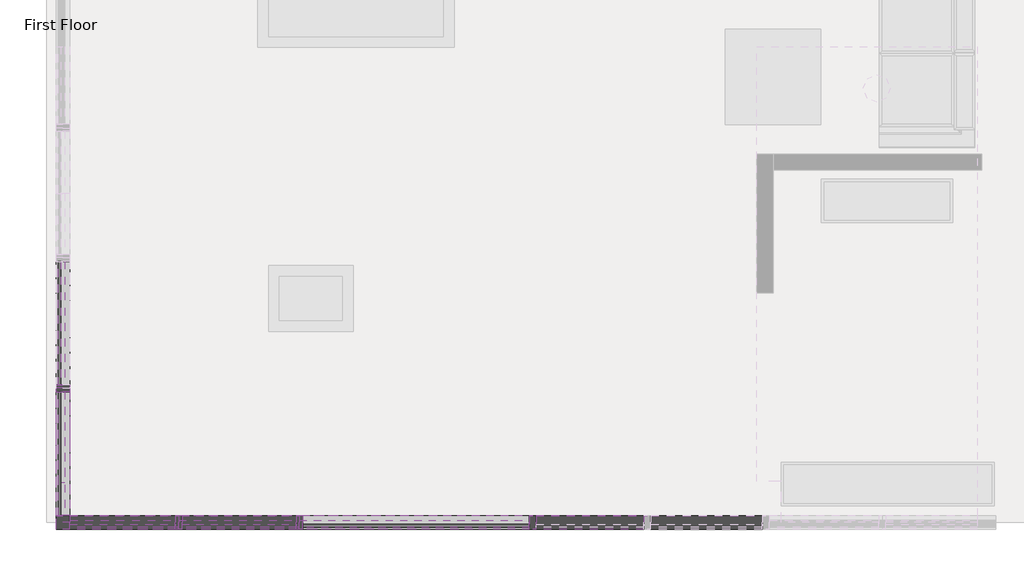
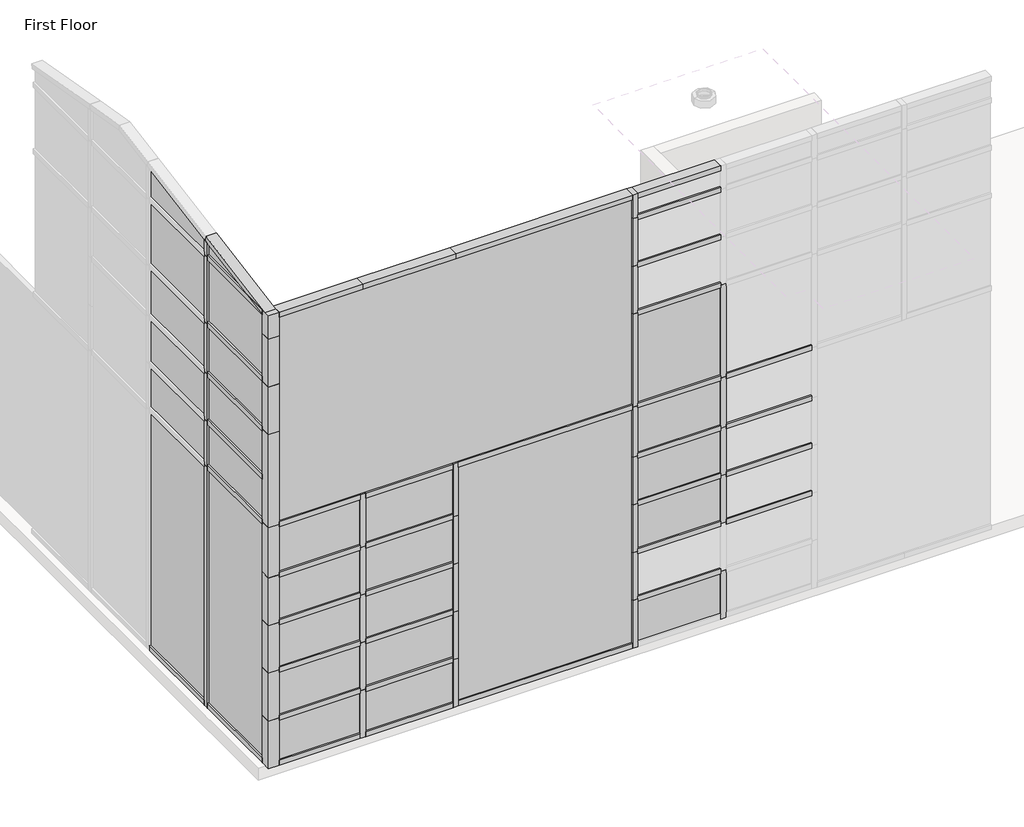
# One storey, part 1 of 5: 77 members, 29 plates.
"""IFC4 building model written with IfcOpenShell, lengths in millimetres."""

from ifc_helpers import new_model, si_unit, origin, place, context, project, spatial, transform, mapped, element, save
from components import member_f9488aa6, member_61850fe3, member_cf64a30b, member_1d60c77e, rectangular_mullion_rectangular_mullion_1_6e77e263, rectangular_mullion_rectangular_mullion_1_75d1e245, rectangular_mullion_rectangular_mullion_1_d7ed0fb9, rectangular_mullion_rectangular_mullion_1_7275bfda, rectangular_mullion_rectangular_mullion_1_3cf98a9d, rectangular_mullion_rectangular_mullion_1_51170729, rectangular_mullion_rectangular_mullion_1_02de63bf, rectangular_mullion_rectangular_mullion_1_b3f2e294, rectangular_mullion_rectangular_mullion_1_c0a49549, rectangular_mullion_rectangular_mullion_1_54137339, rectangular_mullion_rectangular_mullion_1_1122ec7b, rectangular_mullion_rectangular_mullion_1_5249c285, rectangular_mullion_rectangular_mullion_1_8863286a, rectangular_mullion_rectangular_mullion_1_227d3ff1, rectangular_mullion_rectangular_mullion_1_29433100, rectangular_mullion_rectangular_mullion_1_9379107f, rectangular_mullion_rectangular_mullion_1_57ef5777, rectangular_mullion_rectangular_mullion_1_c5460103, rectangular_mullion_rectangular_mullion_1_691106c5, rectangular_mullion_rectangular_mullion_1_5e4cd11c, rectangular_mullion_rectangular_mullion_1_b03e071e, rectangular_mullion_rectangular_mullion_1_b5e65c95, rectangular_mullion_rectangular_mullion_1_7db1855a, rectangular_mullion_rectangular_mullion_1_b08400bc, system_panel_glazed_07d0ebf8, system_panel_glazed_664bf825, system_panel_glazed_ae41f1da, system_panel_glazed_af4c5372, system_panel_glazed_f9e50f4f, system_panel_glazed_065c974c, system_panel_glazed_c6294ef1, system_panel_glazed_9d1674b2, system_panel_glazed_2b550350, system_panel_glazed_a1942897, system_panel_glazed_2df7e5ea, system_panel_glazed_8fba31e9, system_panel_glazed_e0c4105e, system_panel_glazed_89e5f45a, system_panel_solid_white_42bdd3c1, system_panel_solid_white_900c7463, system_panel_solid_white_c78bf428, system_panel_solid_white_f558f5f0, system_panel_solid_white_887372fa, system_panel_solid_white_6decfe58, system_panel_solid_white_d7c5bbf2

model = new_model("IFC4")

# Units and contexts
model_context = context("Model", 3, world=origin())
ifc_project = project(units=[si_unit("LENGTHUNIT", "METRE", prefix="MILLI")], contexts=[model_context])

# Site, building, storey
site = spatial("IfcSite", under=ifc_project)
building = spatial("IfcBuilding", under=site)
storey = spatial("IfcBuildingStorey", under=building, Name="First Floor", Elevation=0.0)

# Members
placement = place(None, origin())
member_shape = member_f9488aa6(model_context)
element("IfcMember", 1, ObjectType="Quad Corner Mullion : 3\" x 1 1/2\" Quad Mullion", at=placement, inside=storey, context=model_context, shape_type="MappedRepresentation", body=[
    mapped(member_shape, transform((-10676.9717693, 6074.9400612, 4267.2), x_axis=(-1.0, 0.0, 0.0), y_axis=(0.0, 1.0, 0.0), z_axis=(0.0, 0.0, -1.0))),
])
element("IfcMember", 2, ObjectType="Quad Corner Mullion : 3\" x 1 1/2\" Quad Mullion", at=placement, inside=storey, context=model_context, shape_type="MappedRepresentation", body=[
    mapped(member_shape, transform((-10676.9717693, 6074.9400612, 4876.8), x_axis=(-1.0, 0.0, 0.0), y_axis=(0.0, 1.0, 0.0), z_axis=(0.0, 0.0, -1.0))),
])
member_2_shape = member_61850fe3(model_context)
element("IfcMember", 3, ObjectType="Quad Corner Mullion : 3\" x 1 1/2\" Quad Mullion", at=placement, inside=storey, context=model_context, shape_type="MappedRepresentation", body=[
    mapped(member_2_shape, transform((-10676.9717693, 6074.9400612, 5486.4), x_axis=(-1.0, 0.0, 0.0), y_axis=(0.0, 1.0, 0.0), z_axis=(0.0, 0.0, -1.0))),
])
element("IfcMember", 4, ObjectType="Quad Corner Mullion : 3\" x 1 1/2\" Quad Mullion", at=placement, inside=storey, context=model_context, shape_type="MappedRepresentation", body=[
    mapped(member_shape, transform((-10676.9717693, 6074.9400612, 609.6), x_axis=(-1.0, 0.0, 0.0), y_axis=(0.0, 1.0, 0.0), z_axis=(0.0, 0.0, -1.0))),
])
element("IfcMember", 5, ObjectType="Quad Corner Mullion : 3\" x 1 1/2\" Quad Mullion", at=placement, inside=storey, context=model_context, shape_type="MappedRepresentation", body=[
    mapped(member_shape, transform((-10676.9717693, 6074.9400612, 1828.8), x_axis=(-1.0, 0.0, 0.0), y_axis=(0.0, 1.0, 0.0), z_axis=(0.0, 0.0, -1.0))),
])
element("IfcMember", 6, ObjectType="Quad Corner Mullion : 3\" x 1 1/2\" Quad Mullion", at=placement, inside=storey, context=model_context, shape_type="MappedRepresentation", body=[
    mapped(member_shape, transform((-10676.9717693, 6074.9400612, 1219.2), x_axis=(-1.0, 0.0, 0.0), y_axis=(0.0, 1.0, 0.0), z_axis=(0.0, 0.0, -1.0))),
])
element("IfcMember", 7, ObjectType="Quad Corner Mullion : 3\" x 1 1/2\" Quad Mullion", at=placement, inside=storey, context=model_context, shape_type="MappedRepresentation", body=[
    mapped(member_shape, transform((-10676.9717693, 6074.9400612, 0.0), x_axis=(-1.0, 0.0, 0.0), y_axis=(0.0, 1.0, 0.0), z_axis=(0.0, 0.0, -1.0))),
])
member_3_shape = member_cf64a30b(model_context)
element("IfcMember", 8, ObjectType="Quad Corner Mullion : 3\" x 1 1/2\" Quad Mullion", at=placement, inside=storey, context=model_context, shape_type="MappedRepresentation", body=[
    mapped(member_3_shape, transform((-10676.9717693, 6074.9400612, 3079.75), x_axis=(-1.0, 0.0, 0.0), y_axis=(0.0, 1.0, 0.0), z_axis=(0.0, 0.0, -1.0))),
])
member_4_shape = member_1d60c77e(model_context)
element("IfcMember", 9, ObjectType="Quad Corner Mullion : 3\" x 1 1/2\" Quad Mullion", at=placement, inside=storey, context=model_context, shape_type="MappedRepresentation", body=[
    mapped(member_4_shape, transform((-10676.9717693, 6074.9400612, 2438.4), x_axis=(-1.0, 0.0, 0.0), y_axis=(0.0, 1.0, 0.0), z_axis=(0.0, 0.0, -1.0))),
])
rectangular_mullion_rectangular_mullion_1_shape = rectangular_mullion_rectangular_mullion_1_6e77e263(model_context)
element("IfcMember", 10, ObjectType="Rectangular Mullion : Rectangular Mullion 1", at=placement, inside=storey, context=model_context, shape_type="MappedRepresentation", body=[
    mapped(rectangular_mullion_rectangular_mullion_1_shape, transform((-6309.078912, 6074.9400612, 0.0), x_axis=(-1.0, 0.0, 0.0), y_axis=(0.0, 1.0, 0.0), z_axis=(0.0, 0.0, -1.0))),
])
element("IfcMember", 11, ObjectType="Rectangular Mullion : Rectangular Mullion 1", at=placement, inside=storey, context=model_context, shape_type="MappedRepresentation", body=[
    mapped(rectangular_mullion_rectangular_mullion_1_shape, transform((-8477.1503405, 6074.9400612, 0.0), x_axis=(-1.0, 0.0, 0.0), y_axis=(0.0, 1.0, 0.0), z_axis=(0.0, 0.0, -1.0))),
])
element("IfcMember", 12, ObjectType="Rectangular Mullion : Rectangular Mullion 1", at=placement, inside=storey, context=model_context, shape_type="MappedRepresentation", body=[
    mapped(rectangular_mullion_rectangular_mullion_1_shape, transform((-9599.7396265, 6074.9400612, 0.0), x_axis=(-1.0, 0.0, 0.0), y_axis=(0.0, 1.0, 0.0), z_axis=(0.0, 0.0, -1.0))),
])
element("IfcMember", 13, ObjectType="Rectangular Mullion : Rectangular Mullion 1", at=placement, inside=storey, context=model_context, shape_type="MappedRepresentation", body=[
    mapped(rectangular_mullion_rectangular_mullion_1_shape, transform((-5243.186055, 6074.9400612, 0.0), x_axis=(-1.0, 0.0, 0.0), y_axis=(0.0, 1.0, 0.0), z_axis=(0.0, 0.0, -1.0))),
])
element("IfcMember", 14, ObjectType="Rectangular Mullion : Rectangular Mullion 1", at=placement, inside=storey, context=model_context, shape_type="MappedRepresentation", body=[
    mapped(rectangular_mullion_rectangular_mullion_1_shape, transform((-5243.186055, 6074.9400612, 1219.2), x_axis=(-1.0, 0.0, 0.0), y_axis=(0.0, 1.0, 0.0), z_axis=(0.0, 0.0, -1.0))),
])
element("IfcMember", 15, ObjectType="Rectangular Mullion : Rectangular Mullion 1", at=placement, inside=storey, context=model_context, shape_type="MappedRepresentation", body=[
    mapped(rectangular_mullion_rectangular_mullion_1_shape, transform((-6309.078912, 6074.9400612, 1219.2), x_axis=(-1.0, 0.0, 0.0), y_axis=(0.0, 1.0, 0.0), z_axis=(0.0, 0.0, -1.0))),
])
element("IfcMember", 16, ObjectType="Rectangular Mullion : Rectangular Mullion 1", at=placement, inside=storey, context=model_context, shape_type="MappedRepresentation", body=[
    mapped(rectangular_mullion_rectangular_mullion_1_shape, transform((-8477.1503405, 6074.9400612, 1219.2), x_axis=(-1.0, 0.0, 0.0), y_axis=(0.0, 1.0, 0.0), z_axis=(0.0, 0.0, -1.0))),
])
element("IfcMember", 17, ObjectType="Rectangular Mullion : Rectangular Mullion 1", at=placement, inside=storey, context=model_context, shape_type="MappedRepresentation", body=[
    mapped(rectangular_mullion_rectangular_mullion_1_shape, transform((-9599.7396265, 6074.9400612, 1219.2), x_axis=(-1.0, 0.0, 0.0), y_axis=(0.0, 1.0, 0.0), z_axis=(0.0, 0.0, -1.0))),
])
element("IfcMember", 18, ObjectType="Rectangular Mullion : Rectangular Mullion 1", at=placement, inside=storey, context=model_context, shape_type="MappedRepresentation", body=[
    mapped(rectangular_mullion_rectangular_mullion_1_shape, transform((-5243.186055, 6074.9400612, 1828.8), x_axis=(-1.0, 0.0, 0.0), y_axis=(0.0, 1.0, 0.0), z_axis=(0.0, 0.0, -1.0))),
])
element("IfcMember", 19, ObjectType="Rectangular Mullion : Rectangular Mullion 1", at=placement, inside=storey, context=model_context, shape_type="MappedRepresentation", body=[
    mapped(rectangular_mullion_rectangular_mullion_1_shape, transform((-6309.078912, 6074.9400612, 1828.8), x_axis=(-1.0, 0.0, 0.0), y_axis=(0.0, 1.0, 0.0), z_axis=(0.0, 0.0, -1.0))),
])
element("IfcMember", 20, ObjectType="Rectangular Mullion : Rectangular Mullion 1", at=placement, inside=storey, context=model_context, shape_type="MappedRepresentation", body=[
    mapped(rectangular_mullion_rectangular_mullion_1_shape, transform((-8477.1503405, 6074.9400612, 1828.8), x_axis=(-1.0, 0.0, 0.0), y_axis=(0.0, 1.0, 0.0), z_axis=(0.0, 0.0, -1.0))),
])
element("IfcMember", 21, ObjectType="Rectangular Mullion : Rectangular Mullion 1", at=placement, inside=storey, context=model_context, shape_type="MappedRepresentation", body=[
    mapped(rectangular_mullion_rectangular_mullion_1_shape, transform((-9599.7396265, 6074.9400612, 1828.8), x_axis=(-1.0, 0.0, 0.0), y_axis=(0.0, 1.0, 0.0), z_axis=(0.0, 0.0, -1.0))),
])
element("IfcMember", 22, ObjectType="Rectangular Mullion : Rectangular Mullion 1", at=placement, inside=storey, context=model_context, shape_type="MappedRepresentation", body=[
    mapped(rectangular_mullion_rectangular_mullion_1_shape, transform((-6309.078912, 6074.9400612, 609.6), x_axis=(-1.0, 0.0, 0.0), y_axis=(0.0, 1.0, 0.0), z_axis=(0.0, 0.0, -1.0))),
])
element("IfcMember", 23, ObjectType="Rectangular Mullion : Rectangular Mullion 1", at=placement, inside=storey, context=model_context, shape_type="MappedRepresentation", body=[
    mapped(rectangular_mullion_rectangular_mullion_1_shape, transform((-8477.1503405, 6074.9400612, 609.6), x_axis=(-1.0, 0.0, 0.0), y_axis=(0.0, 1.0, 0.0), z_axis=(0.0, 0.0, -1.0))),
])
element("IfcMember", 24, ObjectType="Rectangular Mullion : Rectangular Mullion 1", at=placement, inside=storey, context=model_context, shape_type="MappedRepresentation", body=[
    mapped(rectangular_mullion_rectangular_mullion_1_shape, transform((-9599.7396265, 6074.9400612, 609.6), x_axis=(-1.0, 0.0, 0.0), y_axis=(0.0, 1.0, 0.0), z_axis=(0.0, 0.0, -1.0))),
])
element("IfcMember", 25, ObjectType="Rectangular Mullion : Rectangular Mullion 1", at=placement, inside=storey, context=model_context, shape_type="MappedRepresentation", body=[
    mapped(rectangular_mullion_rectangular_mullion_1_shape, transform((-6309.078912, 6074.9400612, 4876.8), x_axis=(-1.0, 0.0, 0.0), y_axis=(0.0, 1.0, 0.0), z_axis=(0.0, 0.0, -1.0))),
])
element("IfcMember", 26, ObjectType="Rectangular Mullion : Rectangular Mullion 1", at=placement, inside=storey, context=model_context, shape_type="MappedRepresentation", body=[
    mapped(rectangular_mullion_rectangular_mullion_1_shape, transform((-6309.078912, 6074.9400612, 4267.2), x_axis=(-1.0, 0.0, 0.0), y_axis=(0.0, 1.0, 0.0), z_axis=(0.0, 0.0, -1.0))),
])
element("IfcMember", 27, ObjectType="Rectangular Mullion : Rectangular Mullion 1", at=placement, inside=storey, context=model_context, shape_type="MappedRepresentation", body=[
    mapped(rectangular_mullion_rectangular_mullion_1_shape, transform((-10676.9717693, 7320.8100614, 3657.6), x_axis=(0.0, 1.0, 0.0), y_axis=(1.0, 0.0, 0.0), z_axis=(0.0, 0.0, -1.0))),
])
rectangular_mullion_rectangular_mullion_1_2_shape = rectangular_mullion_rectangular_mullion_1_75d1e245(model_context)
element("IfcMember", 28, ObjectType="Rectangular Mullion : Rectangular Mullion 1", at=placement, inside=storey, context=model_context, shape_type="MappedRepresentation", body=[
    mapped(rectangular_mullion_rectangular_mullion_1_2_shape, transform((-6309.078912, 6074.9400612, 5486.4), x_axis=(-1.0, 0.0, 0.0), y_axis=(0.0, 1.0, 0.0), z_axis=(0.0, 0.0, -1.0))),
])
rectangular_mullion_rectangular_mullion_1_3_shape = rectangular_mullion_rectangular_mullion_1_d7ed0fb9(model_context)
element("IfcMember", 29, ObjectType="Rectangular Mullion : Rectangular Mullion 1", at=placement, inside=storey, context=model_context, shape_type="MappedRepresentation", body=[
    mapped(rectangular_mullion_rectangular_mullion_1_3_shape, transform((-10613.4717693, 6074.9400612, 3079.75), x_axis=(0.0, 0.0, 1.0), y_axis=(0.0, 1.0, 0.0), z_axis=(-1.0, 0.0, 0.0))),
])
element("IfcMember", 30, ObjectType="Rectangular Mullion : Rectangular Mullion 1", at=placement, inside=storey, context=model_context, shape_type="MappedRepresentation", body=[
    mapped(rectangular_mullion_rectangular_mullion_1_3_shape, transform((-10613.4717693, 6074.9400612, 2438.4), x_axis=(0.0, 0.0, 1.0), y_axis=(0.0, 1.0, 0.0), z_axis=(-1.0, 0.0, 0.0))),
])
element("IfcMember", 31, ObjectType="Rectangular Mullion : Rectangular Mullion 1", at=placement, inside=storey, context=model_context, shape_type="MappedRepresentation", body=[
    mapped(rectangular_mullion_rectangular_mullion_1_3_shape, transform((-10613.4717693, 6074.9400612, 1219.2), x_axis=(0.0, 0.0, 1.0), y_axis=(0.0, 1.0, 0.0), z_axis=(-1.0, 0.0, 0.0))),
])
element("IfcMember", 32, ObjectType="Rectangular Mullion : Rectangular Mullion 1", at=placement, inside=storey, context=model_context, shape_type="MappedRepresentation", body=[
    mapped(rectangular_mullion_rectangular_mullion_1_3_shape, transform((-10613.4717693, 6074.9400612, 1828.8), x_axis=(0.0, 0.0, 1.0), y_axis=(0.0, 1.0, 0.0), z_axis=(-1.0, 0.0, 0.0))),
])
element("IfcMember", 33, ObjectType="Rectangular Mullion : Rectangular Mullion 1", at=placement, inside=storey, context=model_context, shape_type="MappedRepresentation", body=[
    mapped(rectangular_mullion_rectangular_mullion_1_3_shape, transform((-10613.4717693, 6074.9400612, 609.6), x_axis=(0.0, 0.0, 1.0), y_axis=(0.0, 1.0, 0.0), z_axis=(-1.0, 0.0, 0.0))),
])
rectangular_mullion_rectangular_mullion_1_4_shape = rectangular_mullion_rectangular_mullion_1_7275bfda(model_context)
element("IfcMember", 34, ObjectType="Rectangular Mullion : Rectangular Mullion 1", at=placement, inside=storey, context=model_context, shape_type="MappedRepresentation", body=[
    mapped(rectangular_mullion_rectangular_mullion_1_4_shape, transform((-9631.4896265, 6074.9400612, 0.0), x_axis=(0.0, 0.0, -1.0), y_axis=(0.0, 1.0, 0.0), z_axis=(1.0, 0.0, 0.0))),
])
rectangular_mullion_rectangular_mullion_1_5_shape = rectangular_mullion_rectangular_mullion_1_3cf98a9d(model_context)
element("IfcMember", 35, ObjectType="Rectangular Mullion : Rectangular Mullion 1", at=placement, inside=storey, context=model_context, shape_type="MappedRepresentation", body=[
    mapped(rectangular_mullion_rectangular_mullion_1_5_shape, transform((-10613.4717693, 6074.9400612, 5791.2), x_axis=(0.0, 0.0, 1.0), y_axis=(0.0, 1.0, 0.0), z_axis=(-1.0, 0.0, 0.0))),
])
rectangular_mullion_rectangular_mullion_1_6_shape = rectangular_mullion_rectangular_mullion_1_51170729(model_context)
element("IfcMember", 36, ObjectType="Rectangular Mullion : Rectangular Mullion 1", at=placement, inside=storey, context=model_context, shape_type="MappedRepresentation", body=[
    mapped(rectangular_mullion_rectangular_mullion_1_6_shape, transform((-5243.186055, 6074.9400612, 2438.4), x_axis=(-1.0, 0.0, 0.0), y_axis=(0.0, 1.0, 0.0), z_axis=(0.0, 0.0, -1.0))),
])
element("IfcMember", 37, ObjectType="Rectangular Mullion : Rectangular Mullion 1", at=placement, inside=storey, context=model_context, shape_type="MappedRepresentation", body=[
    mapped(rectangular_mullion_rectangular_mullion_1_6_shape, transform((-6309.078912, 6074.9400612, 2438.4), x_axis=(-1.0, 0.0, 0.0), y_axis=(0.0, 1.0, 0.0), z_axis=(0.0, 0.0, -1.0))),
])
element("IfcMember", 38, ObjectType="Rectangular Mullion : Rectangular Mullion 1", at=placement, inside=storey, context=model_context, shape_type="MappedRepresentation", body=[
    mapped(rectangular_mullion_rectangular_mullion_1_6_shape, transform((-10676.9717693, 7320.8100614, 4267.2), x_axis=(0.0, 1.0, 0.0), y_axis=(1.0, 0.0, 0.0), z_axis=(0.0, 0.0, -1.0))),
])
rectangular_mullion_rectangular_mullion_1_7_shape = rectangular_mullion_rectangular_mullion_1_02de63bf(model_context)
element("IfcMember", 39, ObjectType="Rectangular Mullion : Rectangular Mullion 1", at=placement, inside=storey, context=model_context, shape_type="MappedRepresentation", body=[
    mapped(rectangular_mullion_rectangular_mullion_1_7_shape, transform((-8477.1503405, 6074.9400612, 2438.4), x_axis=(-1.0, 0.0, 0.0), y_axis=(0.0, 1.0, 0.0), z_axis=(0.0, 0.0, -1.0))),
])
element("IfcMember", 40, ObjectType="Rectangular Mullion : Rectangular Mullion 1", at=placement, inside=storey, context=model_context, shape_type="MappedRepresentation", body=[
    mapped(rectangular_mullion_rectangular_mullion_1_7_shape, transform((-9599.7396265, 6074.9400612, 2438.4), x_axis=(-1.0, 0.0, 0.0), y_axis=(0.0, 1.0, 0.0), z_axis=(0.0, 0.0, -1.0))),
])
rectangular_mullion_rectangular_mullion_1_8_shape = rectangular_mullion_rectangular_mullion_1_b3f2e294(model_context)
element("IfcMember", 41, ObjectType="Rectangular Mullion : Rectangular Mullion 1", at=placement, inside=storey, context=model_context, shape_type="MappedRepresentation", body=[
    mapped(rectangular_mullion_rectangular_mullion_1_8_shape, transform((-5243.186055, 6074.9400612, 3079.75), x_axis=(-1.0, 0.0, 0.0), y_axis=(0.0, 1.0, 0.0), z_axis=(0.0, 0.0, -1.0))),
])
element("IfcMember", 42, ObjectType="Rectangular Mullion : Rectangular Mullion 1", at=placement, inside=storey, context=model_context, shape_type="MappedRepresentation", body=[
    mapped(rectangular_mullion_rectangular_mullion_1_8_shape, transform((-6309.078912, 6074.9400612, 3079.75), x_axis=(-1.0, 0.0, 0.0), y_axis=(0.0, 1.0, 0.0), z_axis=(0.0, 0.0, -1.0))),
])
rectangular_mullion_rectangular_mullion_1_9_shape = rectangular_mullion_rectangular_mullion_1_c0a49549(model_context)
element("IfcMember", 43, ObjectType="Rectangular Mullion : Rectangular Mullion 1", at=placement, inside=storey, context=model_context, shape_type="MappedRepresentation", body=[
    mapped(rectangular_mullion_rectangular_mullion_1_9_shape, transform((-6277.328912, 6074.9400612, 3079.75), x_axis=(0.0, 0.0, 1.0), y_axis=(0.0, 1.0, 0.0), z_axis=(-1.0, 0.0, 0.0))),
])
element("IfcMember", 44, ObjectType="Rectangular Mullion : Rectangular Mullion 1", at=placement, inside=storey, context=model_context, shape_type="MappedRepresentation", body=[
    mapped(rectangular_mullion_rectangular_mullion_1_9_shape, transform((-6277.328912, 6074.9400612, 2438.4), x_axis=(0.0, 0.0, 1.0), y_axis=(0.0, 1.0, 0.0), z_axis=(-1.0, 0.0, 0.0))),
])
element("IfcMember", 45, ObjectType="Rectangular Mullion : Rectangular Mullion 1", at=placement, inside=storey, context=model_context, shape_type="MappedRepresentation", body=[
    mapped(rectangular_mullion_rectangular_mullion_1_9_shape, transform((-6277.328912, 6074.9400612, 1219.2), x_axis=(0.0, 0.0, 1.0), y_axis=(0.0, 1.0, 0.0), z_axis=(-1.0, 0.0, 0.0))),
])
element("IfcMember", 46, ObjectType="Rectangular Mullion : Rectangular Mullion 1", at=placement, inside=storey, context=model_context, shape_type="MappedRepresentation", body=[
    mapped(rectangular_mullion_rectangular_mullion_1_9_shape, transform((-6277.328912, 6074.9400612, 1828.8), x_axis=(0.0, 0.0, 1.0), y_axis=(0.0, 1.0, 0.0), z_axis=(-1.0, 0.0, 0.0))),
])
element("IfcMember", 47, ObjectType="Rectangular Mullion : Rectangular Mullion 1", at=placement, inside=storey, context=model_context, shape_type="MappedRepresentation", body=[
    mapped(rectangular_mullion_rectangular_mullion_1_9_shape, transform((-6277.328912, 6074.9400612, 609.6), x_axis=(0.0, 0.0, 1.0), y_axis=(0.0, 1.0, 0.0), z_axis=(-1.0, 0.0, 0.0))),
])
element("IfcMember", 48, ObjectType="Rectangular Mullion : Rectangular Mullion 1", at=placement, inside=storey, context=model_context, shape_type="MappedRepresentation", body=[
    mapped(rectangular_mullion_rectangular_mullion_1_9_shape, transform((-6277.328912, 6074.9400612, 4876.8), x_axis=(0.0, 0.0, 1.0), y_axis=(0.0, 1.0, 0.0), z_axis=(-1.0, 0.0, 0.0))),
])
element("IfcMember", 49, ObjectType="Rectangular Mullion : Rectangular Mullion 1", at=placement, inside=storey, context=model_context, shape_type="MappedRepresentation", body=[
    mapped(rectangular_mullion_rectangular_mullion_1_9_shape, transform((-6277.328912, 6074.9400612, 5486.4), x_axis=(0.0, 0.0, 1.0), y_axis=(0.0, 1.0, 0.0), z_axis=(-1.0, 0.0, 0.0))),
])
element("IfcMember", 50, ObjectType="Rectangular Mullion : Rectangular Mullion 1", at=placement, inside=storey, context=model_context, shape_type="MappedRepresentation", body=[
    mapped(rectangular_mullion_rectangular_mullion_1_9_shape, transform((-6277.328912, 6074.9400612, 4267.2), x_axis=(0.0, 0.0, 1.0), y_axis=(0.0, 1.0, 0.0), z_axis=(-1.0, 0.0, 0.0))),
])
rectangular_mullion_rectangular_mullion_1_10_shape = rectangular_mullion_rectangular_mullion_1_54137339(model_context)
element("IfcMember", 51, ObjectType="Rectangular Mullion : Rectangular Mullion 1", at=placement, inside=storey, context=model_context, shape_type="MappedRepresentation", body=[
    mapped(rectangular_mullion_rectangular_mullion_1_10_shape, transform((-5211.436055, 6074.9400612, 3079.75), x_axis=(0.0, 0.0, 1.0), y_axis=(0.0, 1.0, 0.0), z_axis=(-1.0, 0.0, 0.0))),
])
element("IfcMember", 52, ObjectType="Rectangular Mullion : Rectangular Mullion 1", at=placement, inside=storey, context=model_context, shape_type="MappedRepresentation", body=[
    mapped(rectangular_mullion_rectangular_mullion_1_10_shape, transform((-5211.436055, 6074.9400612, 2438.4), x_axis=(0.0, 0.0, 1.0), y_axis=(0.0, 1.0, 0.0), z_axis=(-1.0, 0.0, 0.0))),
])
element("IfcMember", 53, ObjectType="Rectangular Mullion : Rectangular Mullion 1", at=placement, inside=storey, context=model_context, shape_type="MappedRepresentation", body=[
    mapped(rectangular_mullion_rectangular_mullion_1_10_shape, transform((-5211.436055, 6074.9400612, 1219.2), x_axis=(0.0, 0.0, 1.0), y_axis=(0.0, 1.0, 0.0), z_axis=(-1.0, 0.0, 0.0))),
])
element("IfcMember", 54, ObjectType="Rectangular Mullion : Rectangular Mullion 1", at=placement, inside=storey, context=model_context, shape_type="MappedRepresentation", body=[
    mapped(rectangular_mullion_rectangular_mullion_1_10_shape, transform((-5211.436055, 6074.9400612, 1828.8), x_axis=(0.0, 0.0, 1.0), y_axis=(0.0, 1.0, 0.0), z_axis=(-1.0, 0.0, 0.0))),
])
rectangular_mullion_rectangular_mullion_1_11_shape = rectangular_mullion_rectangular_mullion_1_1122ec7b(model_context)
element("IfcMember", 55, ObjectType="Rectangular Mullion : Rectangular Mullion 1", at=placement, inside=storey, context=model_context, shape_type="MappedRepresentation", body=[
    mapped(rectangular_mullion_rectangular_mullion_1_11_shape, transform((-8445.4003405, 6074.9400612, 3079.75), x_axis=(0.0, 0.0, 1.0), y_axis=(0.0, 1.0, 0.0), z_axis=(-1.0, 0.0, 0.0))),
])
rectangular_mullion_rectangular_mullion_1_12_shape = rectangular_mullion_rectangular_mullion_1_5249c285(model_context)
element("IfcMember", 56, ObjectType="Rectangular Mullion : Rectangular Mullion 1", at=placement, inside=storey, context=model_context, shape_type="MappedRepresentation", body=[
    mapped(rectangular_mullion_rectangular_mullion_1_12_shape, transform((-9567.9896265, 6074.9400612, 3079.75), x_axis=(0.0, 0.0, 1.0), y_axis=(0.0, 1.0, 0.0), z_axis=(-1.0, 0.0, 0.0))),
])
element("IfcMember", 57, ObjectType="Rectangular Mullion : Rectangular Mullion 1", at=placement, inside=storey, context=model_context, shape_type="MappedRepresentation", body=[
    mapped(rectangular_mullion_rectangular_mullion_1_12_shape, transform((-9567.9896265, 6074.9400612, 2438.4), x_axis=(0.0, 0.0, 1.0), y_axis=(0.0, 1.0, 0.0), z_axis=(-1.0, 0.0, 0.0))),
])
element("IfcMember", 58, ObjectType="Rectangular Mullion : Rectangular Mullion 1", at=placement, inside=storey, context=model_context, shape_type="MappedRepresentation", body=[
    mapped(rectangular_mullion_rectangular_mullion_1_12_shape, transform((-9567.9896265, 6074.9400612, 1219.2), x_axis=(0.0, 0.0, 1.0), y_axis=(0.0, 1.0, 0.0), z_axis=(-1.0, 0.0, 0.0))),
])
element("IfcMember", 59, ObjectType="Rectangular Mullion : Rectangular Mullion 1", at=placement, inside=storey, context=model_context, shape_type="MappedRepresentation", body=[
    mapped(rectangular_mullion_rectangular_mullion_1_12_shape, transform((-9567.9896265, 6074.9400612, 1828.8), x_axis=(0.0, 0.0, 1.0), y_axis=(0.0, 1.0, 0.0), z_axis=(-1.0, 0.0, 0.0))),
])
element("IfcMember", 60, ObjectType="Rectangular Mullion : Rectangular Mullion 1", at=placement, inside=storey, context=model_context, shape_type="MappedRepresentation", body=[
    mapped(rectangular_mullion_rectangular_mullion_1_12_shape, transform((-9567.9896265, 6074.9400612, 609.6), x_axis=(0.0, 0.0, 1.0), y_axis=(0.0, 1.0, 0.0), z_axis=(-1.0, 0.0, 0.0))),
])
rectangular_mullion_rectangular_mullion_1_13_shape = rectangular_mullion_rectangular_mullion_1_8863286a(model_context)
element("IfcMember", 61, ObjectType="Rectangular Mullion : Rectangular Mullion 1", at=placement, inside=storey, context=model_context, shape_type="MappedRepresentation", body=[
    mapped(rectangular_mullion_rectangular_mullion_1_13_shape, transform((-6340.828912, 6074.9400612, 0.0), x_axis=(0.0, 0.0, -1.0), y_axis=(0.0, 1.0, 0.0), z_axis=(1.0, 0.0, 0.0))),
])
rectangular_mullion_rectangular_mullion_1_14_shape = rectangular_mullion_rectangular_mullion_1_227d3ff1(model_context)
element("IfcMember", 62, ObjectType="Rectangular Mullion : Rectangular Mullion 1", at=placement, inside=storey, context=model_context, shape_type="MappedRepresentation", body=[
    mapped(rectangular_mullion_rectangular_mullion_1_14_shape, transform((-8508.9003405, 6074.9400612, 0.0), x_axis=(0.0, 0.0, -1.0), y_axis=(0.0, 1.0, 0.0), z_axis=(1.0, 0.0, 0.0))),
])
rectangular_mullion_rectangular_mullion_1_15_shape = rectangular_mullion_rectangular_mullion_1_29433100(model_context)
element("IfcMember", 63, ObjectType="Rectangular Mullion : Rectangular Mullion 1", at=placement, inside=storey, context=model_context, shape_type="MappedRepresentation", body=[
    mapped(rectangular_mullion_rectangular_mullion_1_15_shape, transform((-6277.328912, 6074.9400612, 5791.2), x_axis=(0.0, 0.0, 1.0), y_axis=(0.0, 1.0, 0.0), z_axis=(-1.0, 0.0, 0.0))),
])
rectangular_mullion_rectangular_mullion_1_16_shape = rectangular_mullion_rectangular_mullion_1_9379107f(model_context)
element("IfcMember", 64, ObjectType="Rectangular Mullion : Rectangular Mullion 1", at=placement, inside=storey, context=model_context, shape_type="MappedRepresentation", body=[
    mapped(rectangular_mullion_rectangular_mullion_1_16_shape, transform((-8477.1503405, 6074.9400612, 5791.2), x_axis=(0.0, 0.0, 1.0), y_axis=(0.0, 1.0, 0.0), z_axis=(-1.0, 0.0, 0.0))),
])
rectangular_mullion_rectangular_mullion_1_17_shape = rectangular_mullion_rectangular_mullion_1_57ef5777(model_context)
element("IfcMember", 65, ObjectType="Rectangular Mullion : Rectangular Mullion 1", at=placement, inside=storey, context=model_context, shape_type="MappedRepresentation", body=[
    mapped(rectangular_mullion_rectangular_mullion_1_17_shape, transform((-9599.7396265, 6074.9400612, 5791.2), x_axis=(0.0, 0.0, 1.0), y_axis=(0.0, 1.0, 0.0), z_axis=(-1.0, 0.0, 0.0))),
])
rectangular_mullion_rectangular_mullion_1_18_shape = rectangular_mullion_rectangular_mullion_1_c5460103(model_context)
element("IfcMember", 66, ObjectType="Rectangular Mullion : Rectangular Mullion 1", at=placement, inside=storey, context=model_context, shape_type="MappedRepresentation", body=[
    mapped(rectangular_mullion_rectangular_mullion_1_18_shape, transform((-10676.9717693, 6138.4400612, 0.0), x_axis=(0.0, 0.0, -1.0), y_axis=(1.0, 0.0, 0.0), z_axis=(0.0, -1.0, 0.0))),
])
element("IfcMember", 67, ObjectType="Rectangular Mullion : Rectangular Mullion 1", at=placement, inside=storey, context=model_context, shape_type="MappedRepresentation", body=[
    mapped(rectangular_mullion_rectangular_mullion_1_18_shape, transform((-10676.9717693, 7352.5600614, 0.0), x_axis=(0.0, 0.0, -1.0), y_axis=(1.0, 0.0, 0.0), z_axis=(0.0, -1.0, 0.0))),
])
rectangular_mullion_rectangular_mullion_1_19_shape = rectangular_mullion_rectangular_mullion_1_691106c5(model_context)
element("IfcMember", 68, ObjectType="Rectangular Mullion : Rectangular Mullion 1", at=placement, inside=storey, context=model_context, shape_type="MappedRepresentation", body=[
    mapped(rectangular_mullion_rectangular_mullion_1_19_shape, transform((-10676.9717693, 7289.0600614, 3079.75), x_axis=(0.0, 0.0, 1.0), y_axis=(1.0, 0.0, 0.0), z_axis=(0.0, 1.0, 0.0))),
])
element("IfcMember", 69, ObjectType="Rectangular Mullion : Rectangular Mullion 1", at=placement, inside=storey, context=model_context, shape_type="MappedRepresentation", body=[
    mapped(rectangular_mullion_rectangular_mullion_1_19_shape, transform((-10676.9717693, 7289.0600614, 3657.6), x_axis=(0.0, 0.0, 1.0), y_axis=(1.0, 0.0, 0.0), z_axis=(0.0, 1.0, 0.0))),
])
element("IfcMember", 70, ObjectType="Rectangular Mullion : Rectangular Mullion 1", at=placement, inside=storey, context=model_context, shape_type="MappedRepresentation", body=[
    mapped(rectangular_mullion_rectangular_mullion_1_19_shape, transform((-10676.9717693, 7289.0600614, 4267.2), x_axis=(0.0, 0.0, 1.0), y_axis=(1.0, 0.0, 0.0), z_axis=(0.0, 1.0, 0.0))),
])
element("IfcMember", 71, ObjectType="Rectangular Mullion : Rectangular Mullion 1", at=placement, inside=storey, context=model_context, shape_type="MappedRepresentation", body=[
    mapped(rectangular_mullion_rectangular_mullion_1_19_shape, transform((-10676.9717693, 7289.0600614, 4908.55), x_axis=(0.0, 0.0, 1.0), y_axis=(1.0, 0.0, 0.0), z_axis=(0.0, 1.0, 0.0))),
])
element("IfcMember", 72, ObjectType="Rectangular Mullion : Rectangular Mullion 1", at=placement, inside=storey, context=model_context, shape_type="MappedRepresentation", body=[
    mapped(rectangular_mullion_rectangular_mullion_1_19_shape, transform((-10676.9717693, 7289.0600614, 5759.45), x_axis=(0.0, 0.0, 1.0), y_axis=(1.0, 0.0, 0.0), z_axis=(0.0, 1.0, 0.0))),
])
rectangular_mullion_rectangular_mullion_1_20_shape = rectangular_mullion_rectangular_mullion_1_5e4cd11c(model_context)
element("IfcMember", 73, ObjectType="Rectangular Mullion : Rectangular Mullion 1", at=placement, inside=storey, context=model_context, shape_type="MappedRepresentation", body=[
    mapped(rectangular_mullion_rectangular_mullion_1_20_shape, transform((-10676.9717693, 7320.8100614, 6010.8804955), x_axis=(0.0, -0.17364817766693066, 0.9848077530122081), y_axis=(1.0, 0.0, 0.0), z_axis=(0.0, 0.9848077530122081, 0.17364817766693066))),
])
rectangular_mullion_rectangular_mullion_1_21_shape = rectangular_mullion_rectangular_mullion_1_b03e071e(model_context)
element("IfcMember", 74, ObjectType="Rectangular Mullion : Rectangular Mullion 1", at=placement, inside=storey, context=model_context, shape_type="MappedRepresentation", body=[
    mapped(rectangular_mullion_rectangular_mullion_1_21_shape, transform((-10676.9717693, 7320.8100614, 0.0), x_axis=(0.0, 1.0, 0.0), y_axis=(1.0, 0.0, 0.0), z_axis=(0.0, 0.0, -1.0))),
])
rectangular_mullion_rectangular_mullion_1_22_shape = rectangular_mullion_rectangular_mullion_1_b5e65c95(model_context)
element("IfcMember", 75, ObjectType="Rectangular Mullion : Rectangular Mullion 1", at=placement, inside=storey, context=model_context, shape_type="MappedRepresentation", body=[
    mapped(rectangular_mullion_rectangular_mullion_1_22_shape, transform((-10676.9717693, 7320.8100614, 3079.75), x_axis=(0.0, 1.0, 0.0), y_axis=(1.0, 0.0, 0.0), z_axis=(0.0, 0.0, -1.0))),
])
rectangular_mullion_rectangular_mullion_1_23_shape = rectangular_mullion_rectangular_mullion_1_7db1855a(model_context)
element("IfcMember", 76, ObjectType="Rectangular Mullion : Rectangular Mullion 1", at=placement, inside=storey, context=model_context, shape_type="MappedRepresentation", body=[
    mapped(rectangular_mullion_rectangular_mullion_1_23_shape, transform((-10676.9717693, 7320.8100614, 4908.55), x_axis=(0.0, 1.0, 0.0), y_axis=(1.0, 0.0, 0.0), z_axis=(0.0, 0.0, -1.0))),
])
rectangular_mullion_rectangular_mullion_1_24_shape = rectangular_mullion_rectangular_mullion_1_b08400bc(model_context)
element("IfcMember", 77, ObjectType="Rectangular Mullion : Rectangular Mullion 1", at=placement, inside=storey, context=model_context, shape_type="MappedRepresentation", body=[
    mapped(rectangular_mullion_rectangular_mullion_1_24_shape, transform((-10676.9717693, 7320.8100614, 5759.45), x_axis=(0.0, 1.0, 0.0), y_axis=(1.0, 0.0, 0.0), z_axis=(0.0, 0.0, -1.0))),
])

# Plates
system_panel_glazed_shape = system_panel_glazed_07d0ebf8(model_context)
element("IfcPlate", 78, ObjectType="System Panel : Glazed", at=placement, inside=storey, context=model_context, shape_type="MappedRepresentation", body=[
    mapped(system_panel_glazed_shape, transform((-10122.4806979, 6074.9400612, 63.5), x_axis=(-1.0, 0.0, 0.0), y_axis=(0.0, -1.0, 0.0), z_axis=(0.0, 0.0, 1.0))),
])
system_panel_glazed_2_shape = system_panel_glazed_664bf825(model_context)
element("IfcPlate", 79, ObjectType="System Panel : Glazed", at=placement, inside=storey, context=model_context, shape_type="MappedRepresentation", body=[
    mapped(system_panel_glazed_2_shape, transform((-10122.4806979, 6074.9400612, 1250.95), x_axis=(-1.0, 0.0, 0.0), y_axis=(0.0, -1.0, 0.0), z_axis=(0.0, 0.0, 1.0))),
])
element("IfcPlate", 80, ObjectType="System Panel : Glazed", at=placement, inside=storey, context=model_context, shape_type="MappedRepresentation", body=[
    mapped(system_panel_glazed_2_shape, transform((-10122.4806979, 6074.9400612, 1860.55), x_axis=(-1.0, 0.0, 0.0), y_axis=(0.0, -1.0, 0.0), z_axis=(0.0, 0.0, 1.0))),
])
element("IfcPlate", 81, ObjectType="System Panel : Glazed", at=placement, inside=storey, context=model_context, shape_type="MappedRepresentation", body=[
    mapped(system_panel_glazed_2_shape, transform((-10122.4806979, 6074.9400612, 641.35), x_axis=(-1.0, 0.0, 0.0), y_axis=(0.0, -1.0, 0.0), z_axis=(0.0, 0.0, 1.0))),
])
system_panel_glazed_3_shape = system_panel_glazed_ae41f1da(model_context)
element("IfcPlate", 82, ObjectType="System Panel : Glazed", at=placement, inside=storey, context=model_context, shape_type="MappedRepresentation", body=[
    mapped(system_panel_glazed_3_shape, transform((-10122.4806979, 6074.9400612, 2470.15), x_axis=(-1.0, 0.0, 0.0), y_axis=(0.0, -1.0, 0.0), z_axis=(0.0, 0.0, 1.0))),
])
system_panel_glazed_4_shape = system_panel_glazed_af4c5372(model_context)
element("IfcPlate", 83, ObjectType="System Panel : Glazed", at=placement, inside=storey, context=model_context, shape_type="MappedRepresentation", body=[
    mapped(system_panel_glazed_4_shape, transform((-7393.1146263, 6074.9400612, 63.5), x_axis=(-1.0, 0.0, 0.0), y_axis=(0.0, -1.0, 0.0), z_axis=(0.0, 0.0, 1.0))),
])
system_panel_glazed_5_shape = system_panel_glazed_f9e50f4f(model_context)
element("IfcPlate", 84, ObjectType="System Panel : Glazed", at=placement, inside=storey, context=model_context, shape_type="MappedRepresentation", body=[
    mapped(system_panel_glazed_5_shape, transform((-9038.4449835, 6074.9400612, 63.5), x_axis=(-1.0, 0.0, 0.0), y_axis=(0.0, -1.0, 0.0), z_axis=(0.0, 0.0, 1.0))),
])
system_panel_glazed_6_shape = system_panel_glazed_065c974c(model_context)
element("IfcPlate", 85, ObjectType="System Panel : Glazed", at=placement, inside=storey, context=model_context, shape_type="MappedRepresentation", body=[
    mapped(system_panel_glazed_6_shape, transform((-5776.1324835, 6074.9400612, 63.5), x_axis=(-1.0, 0.0, 0.0), y_axis=(0.0, -1.0, 0.0), z_axis=(0.0, 0.0, 1.0))),
])
system_panel_glazed_7_shape = system_panel_glazed_c6294ef1(model_context)
element("IfcPlate", 86, ObjectType="System Panel : Glazed", at=placement, inside=storey, context=model_context, shape_type="MappedRepresentation", body=[
    mapped(system_panel_glazed_7_shape, transform((-5776.1324835, 6074.9400612, 3111.5), x_axis=(-1.0, 0.0, 0.0), y_axis=(0.0, -1.0, 0.0), z_axis=(0.0, 0.0, 1.0))),
])
system_panel_glazed_8_shape = system_panel_glazed_9d1674b2(model_context)
element("IfcPlate", 87, ObjectType="System Panel : Glazed", at=placement, inside=storey, context=model_context, shape_type="MappedRepresentation", body=[
    mapped(system_panel_glazed_8_shape, transform((-9038.4449835, 6074.9400612, 2470.15), x_axis=(-1.0, 0.0, 0.0), y_axis=(0.0, -1.0, 0.0), z_axis=(0.0, 0.0, 1.0))),
])
system_panel_glazed_9_shape = system_panel_glazed_2b550350(model_context)
element("IfcPlate", 88, ObjectType="System Panel : Glazed", at=placement, inside=storey, context=model_context, shape_type="MappedRepresentation", body=[
    mapped(system_panel_glazed_9_shape, transform((-5776.1324835, 6074.9400612, 2470.15), x_axis=(-1.0, 0.0, 0.0), y_axis=(0.0, -1.0, 0.0), z_axis=(0.0, 0.0, 1.0))),
])
system_panel_glazed_10_shape = system_panel_glazed_a1942897(model_context)
element("IfcPlate", 89, ObjectType="System Panel : Glazed", at=placement, inside=storey, context=model_context, shape_type="MappedRepresentation", body=[
    mapped(system_panel_glazed_10_shape, transform((-9038.4449835, 6074.9400612, 1250.95), x_axis=(-1.0, 0.0, 0.0), y_axis=(0.0, -1.0, 0.0), z_axis=(0.0, 0.0, 1.0))),
])
element("IfcPlate", 90, ObjectType="System Panel : Glazed", at=placement, inside=storey, context=model_context, shape_type="MappedRepresentation", body=[
    mapped(system_panel_glazed_10_shape, transform((-9038.4449835, 6074.9400612, 1860.55), x_axis=(-1.0, 0.0, 0.0), y_axis=(0.0, -1.0, 0.0), z_axis=(0.0, 0.0, 1.0))),
])
element("IfcPlate", 91, ObjectType="System Panel : Glazed", at=placement, inside=storey, context=model_context, shape_type="MappedRepresentation", body=[
    mapped(system_panel_glazed_10_shape, transform((-9038.4449835, 6074.9400612, 641.35), x_axis=(-1.0, 0.0, 0.0), y_axis=(0.0, -1.0, 0.0), z_axis=(0.0, 0.0, 1.0))),
])
system_panel_glazed_11_shape = system_panel_glazed_2df7e5ea(model_context)
element("IfcPlate", 92, ObjectType="System Panel : Glazed", at=placement, inside=storey, context=model_context, shape_type="MappedRepresentation", body=[
    mapped(system_panel_glazed_11_shape, transform((-5776.1324835, 6074.9400612, 1250.95), x_axis=(-1.0, 0.0, 0.0), y_axis=(0.0, -1.0, 0.0), z_axis=(0.0, 0.0, 1.0))),
])
element("IfcPlate", 93, ObjectType="System Panel : Glazed", at=placement, inside=storey, context=model_context, shape_type="MappedRepresentation", body=[
    mapped(system_panel_glazed_11_shape, transform((-5776.1324835, 6074.9400612, 1860.55), x_axis=(-1.0, 0.0, 0.0), y_axis=(0.0, -1.0, 0.0), z_axis=(0.0, 0.0, 1.0))),
])
system_panel_glazed_12_shape = system_panel_glazed_8fba31e9(model_context)
element("IfcPlate", 94, ObjectType="System Panel : Glazed", at=placement, inside=storey, context=model_context, shape_type="MappedRepresentation", body=[
    mapped(system_panel_glazed_12_shape, transform((-10676.9717693, 7927.8700613, 3689.35), x_axis=(0.0, 1.0, 0.0), y_axis=(-1.0, 0.0, 0.0), z_axis=(0.0, 0.0, 1.0))),
])
system_panel_glazed_13_shape = system_panel_glazed_e0c4105e(model_context)
element("IfcPlate", 95, ObjectType="System Panel : Glazed", at=placement, inside=storey, context=model_context, shape_type="MappedRepresentation", body=[
    mapped(system_panel_glazed_13_shape, transform((-10676.9717693, 6713.7500613, 63.5), x_axis=(0.0, 1.0, 0.0), y_axis=(-1.0, 0.0, 0.0), z_axis=(0.0, 0.0, 1.0))),
])
element("IfcPlate", 96, ObjectType="System Panel : Glazed", at=placement, inside=storey, context=model_context, shape_type="MappedRepresentation", body=[
    mapped(system_panel_glazed_13_shape, transform((-10676.9717693, 7927.8700613, 63.5), x_axis=(0.0, 1.0, 0.0), y_axis=(-1.0, 0.0, 0.0), z_axis=(0.0, 0.0, 1.0))),
])
system_panel_glazed_14_shape = system_panel_glazed_89e5f45a(model_context)
element("IfcPlate", 97, ObjectType="System Panel : Glazed", at=placement, inside=storey, context=model_context, shape_type="MappedRepresentation", body=[
    mapped(system_panel_glazed_14_shape, transform((-10676.9717693, 7927.8700613, 3111.5), x_axis=(0.0, 1.0, 0.0), y_axis=(-1.0, 0.0, 0.0), z_axis=(0.0, 0.0, 1.0))),
])
system_panel_solid_white_shape = system_panel_solid_white_42bdd3c1(model_context)
element("IfcPlate", 98, ObjectType="System Panel : Solid - White", at=placement, inside=storey, context=model_context, shape_type="MappedRepresentation", body=[
    mapped(system_panel_solid_white_shape, transform((-8477.1503407, 6074.9400612, 3111.5), x_axis=(-1.0, 0.0, 0.0), y_axis=(0.0, -1.0, 0.0), z_axis=(0.0, 0.0, 1.0))),
])
system_panel_solid_white_2_shape = system_panel_solid_white_900c7463(model_context)
element("IfcPlate", 99, ObjectType="System Panel : Solid - White", at=placement, inside=storey, context=model_context, shape_type="MappedRepresentation", body=[
    mapped(system_panel_solid_white_2_shape, transform((-10676.9717693, 7927.8700613, 5791.2), x_axis=(0.0, 1.0, 0.0), y_axis=(-1.0, 0.0, 0.0), z_axis=(0.0, 0.0, 1.0))),
])
system_panel_solid_white_3_shape = system_panel_solid_white_c78bf428(model_context)
element("IfcPlate", 100, ObjectType="System Panel : Solid - White", at=placement, inside=storey, context=model_context, shape_type="MappedRepresentation", body=[
    mapped(system_panel_solid_white_3_shape, transform((-10676.9717693, 6864.8410241, 5791.2), x_axis=(0.0, 1.0, 0.0), y_axis=(-1.0, 0.0, 0.0), z_axis=(0.0, 0.0, 1.0))),
])
system_panel_solid_white_4_shape = system_panel_solid_white_f558f5f0(model_context)
element("IfcPlate", 101, ObjectType="System Panel : Solid - White", at=placement, inside=storey, context=model_context, shape_type="MappedRepresentation", body=[
    mapped(system_panel_solid_white_4_shape, transform((-10676.9717693, 6713.7500613, 4940.3), x_axis=(0.0, 1.0, 0.0), y_axis=(-1.0, 0.0, 0.0), z_axis=(0.0, 0.0, 1.0))),
])
element("IfcPlate", 102, ObjectType="System Panel : Solid - White", at=placement, inside=storey, context=model_context, shape_type="MappedRepresentation", body=[
    mapped(system_panel_solid_white_4_shape, transform((-10676.9717693, 7927.8700613, 4940.3), x_axis=(0.0, 1.0, 0.0), y_axis=(-1.0, 0.0, 0.0), z_axis=(0.0, 0.0, 1.0))),
])
system_panel_solid_white_5_shape = system_panel_solid_white_887372fa(model_context)
element("IfcPlate", 103, ObjectType="System Panel : Solid - White", at=placement, inside=storey, context=model_context, shape_type="MappedRepresentation", body=[
    mapped(system_panel_solid_white_5_shape, transform((-10676.9717693, 6713.7500613, 4298.95), x_axis=(0.0, 1.0, 0.0), y_axis=(-1.0, 0.0, 0.0), z_axis=(0.0, 0.0, 1.0))),
])
element("IfcPlate", 104, ObjectType="System Panel : Solid - White", at=placement, inside=storey, context=model_context, shape_type="MappedRepresentation", body=[
    mapped(system_panel_solid_white_5_shape, transform((-10676.9717693, 7927.8700613, 4298.95), x_axis=(0.0, 1.0, 0.0), y_axis=(-1.0, 0.0, 0.0), z_axis=(0.0, 0.0, 1.0))),
])
system_panel_solid_white_6_shape = system_panel_solid_white_6decfe58(model_context)
element("IfcPlate", 105, ObjectType="System Panel : Solid - White", at=placement, inside=storey, context=model_context, shape_type="MappedRepresentation", body=[
    mapped(system_panel_solid_white_6_shape, transform((-10676.9717693, 6713.7500613, 3689.35), x_axis=(0.0, 1.0, 0.0), y_axis=(-1.0, 0.0, 0.0), z_axis=(0.0, 0.0, 1.0))),
])
system_panel_solid_white_7_shape = system_panel_solid_white_d7c5bbf2(model_context)
element("IfcPlate", 106, ObjectType="System Panel : Solid - White", at=placement, inside=storey, context=model_context, shape_type="MappedRepresentation", body=[
    mapped(system_panel_solid_white_7_shape, transform((-10676.9717693, 6713.7500613, 3111.5), x_axis=(0.0, 1.0, 0.0), y_axis=(-1.0, 0.0, 0.0), z_axis=(0.0, 0.0, 1.0))),
])

save(model, "model.ifc")
